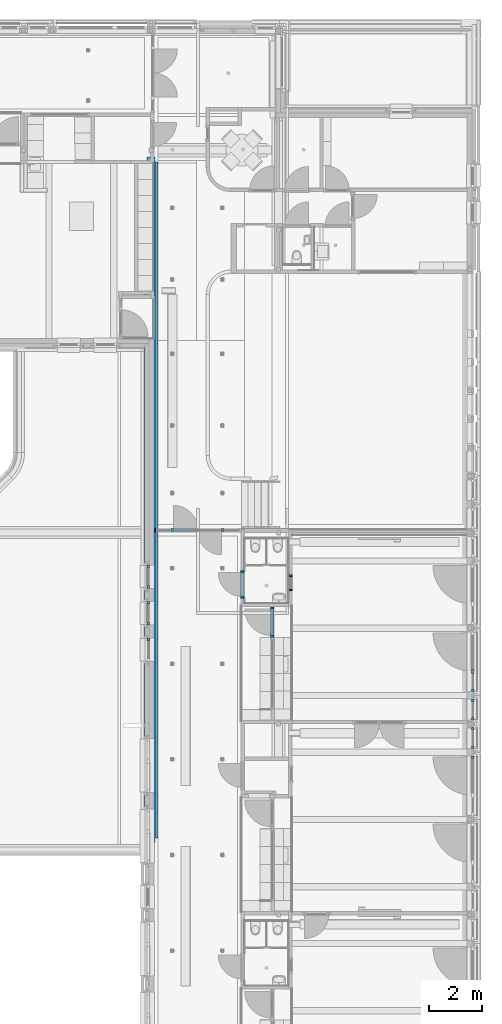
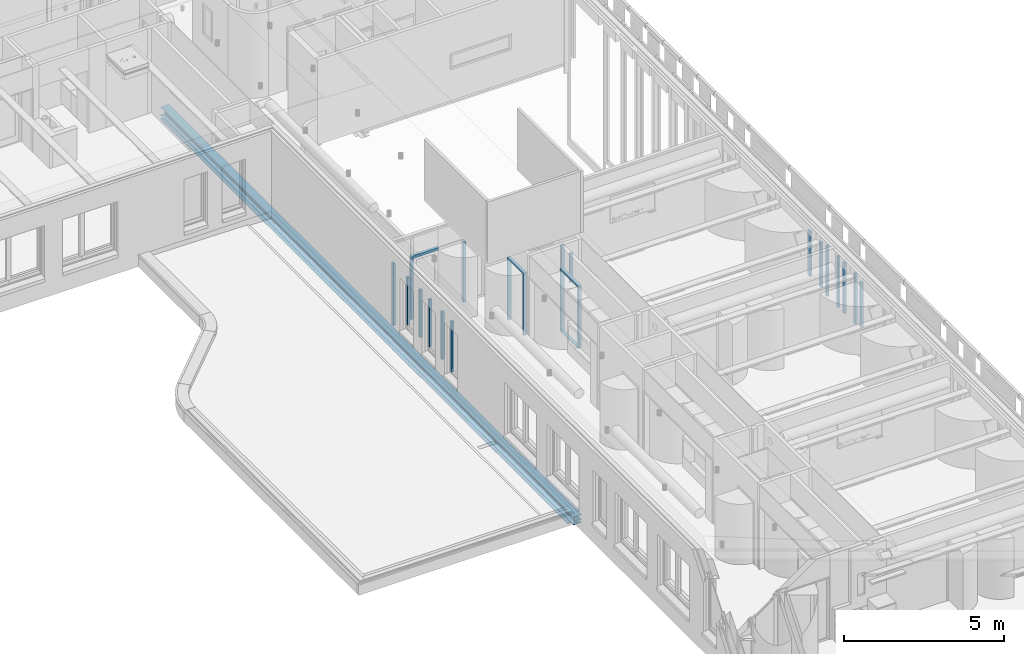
# One storey, part 11 of 128: 25 members, 1 beam, 11 elements without a shape of their own.
"""IFC2X3 building model written with IfcOpenShell, lengths in millimetres."""

from ifc_helpers import new_model, entity, si_unit, converted_unit, derived_unit, direction, frame, frame_2d, origin, origin_2d_with_axis, place, context, subcontext, project, spatial, polyline, circle_curve, parameter, trimmed, segment, composite_curve, rectangle, outline, extrude, source, transform, mapped, material, material_list, type_object, type_shapes, element, aggregate, save


model = new_model("IFC2X3")

# Units and contexts
model_context = context("Model", 3, precision=0.01, world=origin(), true_north=direction((6.123031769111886e-17, 1.0)))
body_context = subcontext(model_context, "Body", "Model", "MODEL_VIEW")
ifc_project = project(units=[si_unit("LENGTHUNIT", "METRE", prefix="MILLI"), si_unit("AREAUNIT", "SQUARE_METRE"), si_unit("VOLUMEUNIT", "CUBIC_METRE"), converted_unit("PLANEANGLEUNIT", "DEGREE", entity("IfcRatioMeasure", 0.017453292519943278), si_unit("PLANEANGLEUNIT", "RADIAN"), dimensions=[0, 0, 0, 0, 0, 0, 0]), si_unit("MASSUNIT", "GRAM", prefix="KILO"), derived_unit("MASSDENSITYUNIT", [(si_unit("MASSUNIT", "GRAM", prefix="KILO"), 1), (si_unit("LENGTHUNIT", "METRE"), -3)]), derived_unit("IONCONCENTRATIONUNIT", [(si_unit("MASSUNIT", "GRAM", prefix="KILO"), 1), (si_unit("LENGTHUNIT", "METRE"), -3)]), derived_unit("MOMENTOFINERTIAUNIT", [(si_unit("LENGTHUNIT", "METRE"), 4)]), si_unit("TIMEUNIT", "SECOND"), si_unit("FREQUENCYUNIT", "HERTZ"), si_unit("THERMODYNAMICTEMPERATUREUNIT", "DEGREE_CELSIUS"), derived_unit("THERMALTRANSMITTANCEUNIT", [(si_unit("MASSUNIT", "GRAM", prefix="KILO"), 1), (si_unit("THERMODYNAMICTEMPERATUREUNIT", "KELVIN"), -1), (si_unit("TIMEUNIT", "SECOND"), -3)]), derived_unit("THERMALCONDUCTANCEUNIT", [(si_unit("MASSUNIT", "GRAM", prefix="KILO"), 1), (si_unit("THERMODYNAMICTEMPERATUREUNIT", "KELVIN"), -1), (si_unit("TIMEUNIT", "SECOND"), -3), (si_unit("LENGTHUNIT", "METRE"), 1)]), derived_unit("VOLUMETRICFLOWRATEUNIT", [(si_unit("LENGTHUNIT", "METRE"), 3), (si_unit("TIMEUNIT", "SECOND"), -1)]), derived_unit("MASSFLOWRATEUNIT", [(si_unit("MASSUNIT", "GRAM", prefix="KILO"), 1), (si_unit("TIMEUNIT", "SECOND"), -1)]), derived_unit("ROTATIONALFREQUENCYUNIT", [(si_unit("TIMEUNIT", "SECOND"), -1)]), si_unit("ELECTRICCURRENTUNIT", "AMPERE"), si_unit("ELECTRICVOLTAGEUNIT", "VOLT"), si_unit("POWERUNIT", "WATT"), si_unit("FORCEUNIT", "NEWTON", prefix="KILO"), si_unit("ILLUMINANCEUNIT", "LUX"), si_unit("LUMINOUSFLUXUNIT", "LUMEN"), si_unit("LUMINOUSINTENSITYUNIT", "CANDELA"), derived_unit("USERDEFINED", [(si_unit("MASSUNIT", "GRAM", prefix="KILO"), -1), (si_unit("LENGTHUNIT", "METRE"), -2), (si_unit("TIMEUNIT", "SECOND"), 3), (si_unit("LUMINOUSFLUXUNIT", "LUMEN"), 1)]), derived_unit("USERDEFINED", [(si_unit("MASSUNIT", "GRAM", prefix="KILO"), 1), (si_unit("TIMEUNIT", "SECOND"), -3), (si_unit("LENGTHUNIT", "METRE"), 3), (si_unit("ELECTRICCURRENTUNIT", "AMPERE"), -2)]), derived_unit("SOUNDPOWERUNIT", [(si_unit("MASSUNIT", "GRAM", prefix="KILO"), 1), (si_unit("TIMEUNIT", "SECOND"), -3), (si_unit("LENGTHUNIT", "METRE"), 2)]), derived_unit("SOUNDPRESSUREUNIT", [(si_unit("MASSUNIT", "GRAM", prefix="KILO"), 1), (si_unit("LENGTHUNIT", "METRE"), -1), (si_unit("TIMEUNIT", "SECOND"), -2)]), derived_unit("LINEARVELOCITYUNIT", [(si_unit("LENGTHUNIT", "METRE"), 1), (si_unit("TIMEUNIT", "SECOND"), -1)]), si_unit("PRESSUREUNIT", "PASCAL"), derived_unit("USERDEFINED", [(si_unit("MASSUNIT", "GRAM", prefix="KILO"), 1), (si_unit("LENGTHUNIT", "METRE"), -2), (si_unit("TIMEUNIT", "SECOND"), -2)]), derived_unit("LINEARFORCEUNIT", [(si_unit("MASSUNIT", "GRAM", prefix="KILO"), 1), (si_unit("TIMEUNIT", "SECOND"), -2)]), derived_unit("PLANARFORCEUNIT", [(si_unit("MASSUNIT", "GRAM", prefix="KILO"), 1), (si_unit("LENGTHUNIT", "METRE"), -1), (si_unit("TIMEUNIT", "SECOND"), -2)]), derived_unit("SPECIFICHEATCAPACITYUNIT", [(si_unit("THERMODYNAMICTEMPERATUREUNIT", "KELVIN"), -1), (si_unit("LENGTHUNIT", "METRE"), 2), (si_unit("TIMEUNIT", "SECOND"), -2)]), derived_unit("HEATINGVALUEUNIT", [(si_unit("LENGTHUNIT", "METRE"), 2), (si_unit("TIMEUNIT", "SECOND"), -2)]), derived_unit("VAPORPERMEABILITYUNIT", [(si_unit("LENGTHUNIT", "METRE"), -1), (si_unit("TIMEUNIT", "SECOND"), 1)]), derived_unit("DYNAMICVISCOSITYUNIT", [(si_unit("MASSUNIT", "GRAM", prefix="KILO"), 1), (si_unit("TIMEUNIT", "SECOND"), -1), (si_unit("LENGTHUNIT", "METRE"), -1)]), derived_unit("THERMALEXPANSIONCOEFFICIENTUNIT", [(si_unit("THERMODYNAMICTEMPERATUREUNIT", "KELVIN"), -1)]), derived_unit("MODULUSOFELASTICITYUNIT", [(si_unit("MASSUNIT", "GRAM", prefix="KILO"), 1), (si_unit("LENGTHUNIT", "METRE"), -1), (si_unit("TIMEUNIT", "SECOND"), -2)]), derived_unit("ISOTHERMALMOISTURECAPACITYUNIT", [(si_unit("LENGTHUNIT", "METRE"), 3), (si_unit("MASSUNIT", "GRAM", prefix="KILO"), -1)]), derived_unit("MOISTUREDIFFUSIVITYUNIT", [(si_unit("TIMEUNIT", "SECOND"), -1), (si_unit("LENGTHUNIT", "METRE"), 2)])], contexts=[model_context])

# Site, building, storey
site_placement = place(None, frame((0.0, 300.0, 0.0)))
site = spatial("IfcSite", under=ifc_project, at=site_placement, Name="<Kadastrale nummers>", CompositionType="ELEMENT")
building_placement = place(site_placement, origin())
building = spatial("IfcBuilding", under=site, at=building_placement, CompositionType="ELEMENT")
storey_placement = place(building_placement, frame((0.0, 0.0, 3560.0000331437)))
storey = spatial("IfcBuildingStorey", under=building, at=storey_placement, Name="01 eerste verdieping", CompositionType="ELEMENT", Elevation=3560.0000331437)

# Beam
ifc_material_1 = material(Name="ISR_Staal")
ifc_material_2 = material(Name="<Unnamed>")
ifc_material_list = material_list([ifc_material_2, ifc_material_1])
beam_type = type_object("IfcBeamType", Name="NLRS_28_SF_LIB_balk SFB_gen_ASN:balk HEA320 500x20", PredefinedType="BEAM", material=ifc_material_list)
shared_shape_1 = source(origin(), body_context, "Body", "SweptSolid", [
    extrude(rectangle(XDim=20.000000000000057, YDim=499.99999999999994, at=origin_2d_with_axis()), frame((-12597.299999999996, 0.0, -111.0), z_axis=(1.0, 0.0, 0.0), x_axis=(0.0, 0.0, -1.0)), (0.0, 0.0, 1.0), 25467.299999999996),
    extrude(outline(composite_curve([segment(polyline([(139.49999999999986, -150.0), (155.0, -150.0)]), True, "CONTINUOUS"), segment(polyline([(155.0, -150.0), (155.0, 150.0)]), True, "CONTINUOUS"), segment(polyline([(155.0, 150.0), (139.49999999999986, 150.0)]), True, "CONTINUOUS"), segment(polyline([(139.49999999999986, 150.0), (139.49999999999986, 31.499999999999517)]), True, "CONTINUOUS"), segment(trimmed(circle_curve(frame_2d((112.49999999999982, 31.499999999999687), x_axis=(1.0, 0.0)), 27.000000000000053), [parameter(270.00000000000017)], [parameter(0.0)], True, "PARAMETER"), False, "CONTINUOUS"), segment(polyline([(112.49999999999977, 4.499999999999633), (-112.49999999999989, 4.499999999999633)]), True, "CONTINUOUS"), segment(trimmed(circle_curve(frame_2d((-112.49999999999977, 31.49999999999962), x_axis=(0.0, -1.0)), 26.99999999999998), [parameter(269.9999999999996)], [parameter(0.0)], True, "PARAMETER"), False, "CONTINUOUS"), segment(polyline([(-139.49999999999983, 31.499999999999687), (-139.49999999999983, 150.0)]), True, "CONTINUOUS"), segment(polyline([(-139.49999999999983, 150.0), (-155.0, 150.0)]), True, "CONTINUOUS"), segment(polyline([(-155.0, 150.0), (-155.0, -150.0)]), True, "CONTINUOUS"), segment(polyline([(-155.0, -150.0), (-139.49999999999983, -150.0)]), True, "CONTINUOUS"), segment(polyline([(-139.49999999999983, -150.0), (-139.49999999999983, -31.500000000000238)]), True, "CONTINUOUS"), segment(trimmed(circle_curve(frame_2d((-112.49999999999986, -31.500000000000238), x_axis=(-1.0, 0.0)), 26.999999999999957), [parameter(269.99999999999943)], [parameter(0.0)], True, "PARAMETER"), False, "CONTINUOUS"), segment(polyline([(-112.49999999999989, -4.500000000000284), (112.49999999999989, -4.500000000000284)]), True, "CONTINUOUS"), segment(trimmed(circle_curve(frame_2d((112.49999999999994, -31.500000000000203), x_axis=(0.0, 1.0)), 26.99999999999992), [parameter(269.9999999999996)], [parameter(0.0)], True, "PARAMETER"), False, "CONTINUOUS"), segment(polyline([(139.49999999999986, -31.500000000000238), (139.49999999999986, -150.0)]), True, "CONTINUOUS")], self_intersect=False)), frame((-12772.299999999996, 0.0, 54.0), z_axis=(1.0, 0.0, 0.0), x_axis=(0.0, 0.0, -1.0)), (0.0, 0.0, 1.0), 25817.299999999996),
])
type_shapes(beam_type, [shared_shape_1])
beam_placement = place(storey_placement, frame((36600.0, 32265.0, -219.0), z_axis=(0.0, 0.0, 1.0), x_axis=(0.0, -1.0, 0.0)))
element("IfcBeam", 1, at=beam_placement, inside=storey, type_object=beam_type, material=ifc_material_1, Name="NLRS_28_SF_LIB_balk SFB_gen_ASN:balk HEA320 500x20", ObjectType="NLRS_28_SF_LIB_balk SFB_gen_ASN:balk HEA320 500x20", context=body_context, shape_type="MappedRepresentation", body=[
    mapped(shared_shape_1, transform((0.0, 0.0, 0.0), scale=1.0)),
])

# Curtain wall, members
curtain_wall_type_1 = type_object("IfcCurtainWallType", Name="Curtain Wall:Merk H01", PredefinedType="NOTDEFINED")
curtain_wall_1_placement = place(storey_placement, frame((0.0, 0.0, -3560.0000331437)))
curtain_wall_1 = element("IfcCurtainWall", 2, at=curtain_wall_1_placement, inside=storey, type_object=curtain_wall_type_1, Name="Curtain Wall:Merk H01", ObjectType="Curtain Wall:Merk H01")
ifc_material_3 = material(Name="ISR_HPL")
member_type_1 = type_object("IfcMemberType", Name="Rectangular Mullion:31_CWM_067x114", PredefinedType="MULLION", material=ifc_material_3)
shared_shape_2 = source(origin(), body_context, "Body", "SweptSolid", [
    extrude(rectangle(XDim=113.99999999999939, YDim=67.0, at=origin_2d_with_axis()), frame((-33.5, -57.0, -1034.0), z_axis=(0.0, 0.0, 1.0), x_axis=(0.0, -1.0, 0.0)), (0.0, 0.0, 1.0), 1033.9999999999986),
])
type_shapes(member_type_1, [shared_shape_2])
member_1_placement = place(curtain_wall_1_placement, frame((40084.0, 29462.997246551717, 6040.0000331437), z_axis=(0.0, 1.0, 0.0), x_axis=(0.0, 0.0, 1.0)))
member_1 = element("IfcMember", 3, at=member_1_placement, type_object=member_type_1, material=ifc_material_3, Name="Rectangular Mullion:31_CWM_067x114", ObjectType="Rectangular Mullion:31_CWM_067x114", context=body_context, shape_type="MappedRepresentation", body=[
    mapped(shared_shape_2, transform((0.0, 0.0, 0.0), scale=1.0)),
])
member_type_2 = type_object("IfcMemberType", Name="Rectangular Mullion:31_CWM_067x114", PredefinedType="MULLION", material=ifc_material_3)
shared_shape_3 = source(origin(), body_context, "Body", "SweptSolid", [
    extrude(rectangle(XDim=113.99999999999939, YDim=67.0, at=origin_2d_with_axis()), frame((-33.5, -57.0, -2323.0), z_axis=(0.0, 0.0, 1.0), x_axis=(0.0, -1.0, 0.0)), (0.0, 0.0, 1.0), 2323.0),
])
type_shapes(member_type_2, [shared_shape_3])
member_2_placement = place(curtain_wall_1_placement, frame((40084.0, 29462.997246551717, 3650.00003501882), z_axis=(0.0, 0.0, -1.0), x_axis=(0.0, 1.0, 0.0)))
member_2 = element("IfcMember", 4, at=member_2_placement, type_object=member_type_2, material=ifc_material_3, Name="Rectangular Mullion:31_CWM_067x114", ObjectType="Rectangular Mullion:31_CWM_067x114", context=body_context, shape_type="MappedRepresentation", body=[
    mapped(shared_shape_3, transform((0.0, 0.0, 0.0), scale=1.0)),
])

# Curtain wall, member
curtain_wall_type_2 = type_object("IfcCurtainWallType", Name="Curtain Wall:Merk H09", PredefinedType="NOTDEFINED")
curtain_wall_2_placement = place(storey_placement, frame((0.0, 0.0, -3560.0000331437)))
curtain_wall_2 = element("IfcCurtainWall", 5, at=curtain_wall_2_placement, inside=storey, type_object=curtain_wall_type_2, Name="Curtain Wall:Merk H09", ObjectType="Curtain Wall:Merk H09")
member_3_placement = place(curtain_wall_2_placement, frame((41209.0, 28094.998623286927, 3650.00003501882), z_axis=(0.0, 0.0, -1.0), x_axis=(0.0, 1.0, 0.0)))
member_3 = element("IfcMember", 6, at=member_3_placement, type_object=member_type_2, material=ifc_material_3, Name="Rectangular Mullion:31_CWM_067x114", ObjectType="Rectangular Mullion:31_CWM_067x114", context=body_context, shape_type="MappedRepresentation", body=[
    mapped(shared_shape_3, transform((0.0, 0.0, 0.0), scale=1.0)),
])

# Member
member_type_3 = type_object("IfcMemberType", Name="Rectangular Mullion:31_CWM_067x114", PredefinedType="MULLION", material=ifc_material_3)
shared_shape_4 = source(origin(), body_context, "Body", "SweptSolid", [
    extrude(rectangle(XDim=113.9999999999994, YDim=67.0, at=frame_2d((1.0658141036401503e-14, 0.0), x_axis=(1.0, 0.0))), frame((-33.5, -57.0, -2323.0), z_axis=(0.0, 0.0, 1.0), x_axis=(0.0, -1.0, 0.0)), (0.0, 0.0, 1.0), 2323.0),
])
type_shapes(member_type_3, [shared_shape_4])
member_4_placement = place(curtain_wall_1_placement, frame((40084.0, 28428.997246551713, 5973.0000331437), z_axis=(0.0, 0.0, 1.0), x_axis=(0.0, -1.0, 0.0)))
member_4 = element("IfcMember", 7, at=member_4_placement, type_object=member_type_3, material=ifc_material_3, Name="Rectangular Mullion:31_CWM_067x114", ObjectType="Rectangular Mullion:31_CWM_067x114", context=body_context, shape_type="MappedRepresentation", body=[
    mapped(shared_shape_4, transform((0.0, 0.0, 0.0), scale=1.0)),
])

aggregate(curtain_wall_1, [member_1, member_2, member_4])

member_5_placement = place(curtain_wall_2_placement, frame((41209.0, 26960.99862328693, 5973.0000331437), z_axis=(0.0, 0.0, 1.0), x_axis=(0.0, -1.0, 0.0)))
member_5 = element("IfcMember", 8, at=member_5_placement, type_object=member_type_3, material=ifc_material_3, Name="Rectangular Mullion:31_CWM_067x114", ObjectType="Rectangular Mullion:31_CWM_067x114", context=body_context, shape_type="MappedRepresentation", body=[
    mapped(shared_shape_4, transform((0.0, 0.0, 0.0), scale=1.0)),
])

member_type_4 = type_object("IfcMemberType", Name="Rectangular Mullion:31_CWM_067x114", PredefinedType="MULLION", material=ifc_material_3)
shared_shape_5 = source(origin(), body_context, "Body", "SweptSolid", [
    extrude(rectangle(XDim=113.99999999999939, YDim=67.0, at=origin_2d_with_axis()), frame((-33.5, -57.0, -1134.0), z_axis=(0.0, 0.0, 1.0), x_axis=(0.0, -1.0, 0.0)), (0.0, 0.0, 1.0), 1133.9999999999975),
])
type_shapes(member_type_4, [shared_shape_5])
member_6_placement = place(curtain_wall_2_placement, frame((41209.0, 28094.998623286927, 6040.0000331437), z_axis=(0.0, 1.0, 0.0), x_axis=(0.0, 0.0, 1.0)))
member_6 = element("IfcMember", 9, at=member_6_placement, type_object=member_type_4, material=ifc_material_3, Name="Rectangular Mullion:31_CWM_067x114", ObjectType="Rectangular Mullion:31_CWM_067x114", context=body_context, shape_type="MappedRepresentation", body=[
    mapped(shared_shape_5, transform((0.0, 0.0, 0.0), scale=1.0)),
])

ifc_material_4 = material(Name="ISR_Kunststof_grijs")
member_type_5 = type_object("IfcMemberType", Name="Rectangular Mullion:31_CWM_020x114", PredefinedType="MULLION", material=ifc_material_4)
shared_shape_6 = source(origin(), body_context, "Body", "SweptSolid", [
    extrude(rectangle(XDim=113.9999999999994, YDim=20.0, at=frame_2d((1.0658141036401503e-14, 0.0), x_axis=(1.0, 0.0))), frame((-10.0, -57.0, -1000.0), z_axis=(0.0, 0.0, 1.0), x_axis=(0.0, -1.0, 0.0)), (0.0, 0.0, 1.0), 999.999999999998),
])
type_shapes(member_type_5, [shared_shape_6])
member_7_placement = place(curtain_wall_2_placement, frame((41209.0, 27027.99862328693, 3650.00003501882), z_axis=(0.0, -1.0, 0.0), x_axis=(0.0, 0.0, -1.0)))
member_7 = element("IfcMember", 10, at=member_7_placement, type_object=member_type_5, material=ifc_material_4, Name="Rectangular Mullion:31_CWM_020x114", ObjectType="Rectangular Mullion:31_CWM_020x114", context=body_context, shape_type="MappedRepresentation", body=[
    mapped(shared_shape_6, transform((0.0, 0.0, 0.0), scale=1.0)),
])

aggregate(curtain_wall_2, [member_5, member_6, member_7, member_3])

# Curtain wall, members
curtain_wall_type_3 = type_object("IfcCurtainWallType", Name="Curtain Wall:Merk H05", PredefinedType="NOTDEFINED")
curtain_wall_3_placement = place(storey_placement, frame((0.0, 0.0, -3560.0000331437)))
curtain_wall_3 = element("IfcCurtainWall", 11, at=curtain_wall_3_placement, inside=storey, type_object=curtain_wall_type_3, Name="Curtain Wall:Merk H05", ObjectType="Curtain Wall:Merk H05")
member_type_6 = type_object("IfcMemberType", Name="Rectangular Mullion:31_CWM_067x114", PredefinedType="MULLION", material=ifc_material_3)
shared_shape_7 = source(origin(), body_context, "Body", "SweptSolid", [
    extrude(rectangle(XDim=113.99999999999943, YDim=67.0, at=origin_2d_with_axis()), frame((-33.5, 57.0, -1123.0), z_axis=(0.0, 0.0, 1.0), x_axis=(0.0, -1.0, 0.0)), (0.0, 0.0, 1.0), 1123.0000000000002),
])
type_shapes(member_type_6, [shared_shape_7])
member_8_placement = place(curtain_wall_3_placement, frame((41801.0, 29309.998623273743, 4850.0000331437), z_axis=(0.0, 0.0, -1.0), x_axis=(0.0, 1.0, 0.0)))
member_8 = element("IfcMember", 12, at=member_8_placement, type_object=member_type_6, material=ifc_material_3, Name="Rectangular Mullion:31_CWM_067x114", ObjectType="Rectangular Mullion:31_CWM_067x114", context=body_context, shape_type="MappedRepresentation", body=[
    mapped(shared_shape_7, transform((0.0, 0.0, 0.0), scale=1.0)),
])
member_type_7 = type_object("IfcMemberType", Name="Rectangular Mullion:31_CWM_067x114", PredefinedType="MULLION", material=ifc_material_3)
shared_shape_8 = source(origin(), body_context, "Body", "SweptSolid", [
    extrude(rectangle(XDim=113.99999999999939, YDim=67.0, at=origin_2d_with_axis()), frame((-33.5, 57.0, -1123.0), z_axis=(0.0, 0.0, 1.0), x_axis=(0.0, -1.0, 0.0)), (0.0, 0.0, 1.0), 1123.0000000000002),
])
type_shapes(member_type_7, [shared_shape_8])
member_9_placement = place(curtain_wall_3_placement, frame((41801.0, 28709.998623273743, 5973.0000331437), z_axis=(0.0, 0.0, 1.0), x_axis=(0.0, -1.0, 0.0)))
member_9 = element("IfcMember", 13, at=member_9_placement, type_object=member_type_7, material=ifc_material_3, Name="Rectangular Mullion:31_CWM_067x114", ObjectType="Rectangular Mullion:31_CWM_067x114", context=body_context, shape_type="MappedRepresentation", body=[
    mapped(shared_shape_8, transform((0.0, 0.0, 0.0), scale=1.0)),
])
aggregate(curtain_wall_3, [member_8, member_9])

curtain_wall_type_4 = type_object("IfcCurtainWallType", Name="Curtain Wall:Merk H12", PredefinedType="NOTDEFINED")
curtain_wall_4_placement = place(storey_placement, frame((0.0, 0.0, -3560.0000331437)))
curtain_wall_4 = element("IfcCurtainWall", 14, at=curtain_wall_4_placement, inside=storey, type_object=curtain_wall_type_4, Name="Curtain Wall:Merk H12", ObjectType="Curtain Wall:Merk H12")
ifc_material_5 = material(Name="ISR_HPL Kleur hout")
member_type_8 = type_object("IfcMemberType", Name="Rectangular Mullion:31_CWM_090x114", PredefinedType="MULLION", material=ifc_material_5)
shared_shape_9 = source(origin(), body_context, "Body", "SweptSolid", [
    extrude(rectangle(XDim=113.99999999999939, YDim=90.0, at=origin_2d_with_axis()), frame((0.0, -57.0, -2323.0), z_axis=(0.0, 0.0, 1.0), x_axis=(0.0, -1.0, 0.0)), (0.0, 0.0, 1.0), 2322.9999999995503),
])
type_shapes(member_type_8, [shared_shape_9])
member_10_placement = place(curtain_wall_4_placement, frame((37401.25000000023, 30936.0, 3650.0000350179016), z_axis=(0.0, 0.0, -1.0), x_axis=(1.0, 0.0, 0.0)))
member_10 = element("IfcMember", 15, at=member_10_placement, type_object=member_type_8, material=ifc_material_5, Name="Rectangular Mullion:31_CWM_090x114", ObjectType="Rectangular Mullion:31_CWM_090x114", context=body_context, shape_type="MappedRepresentation", body=[
    mapped(shared_shape_9, transform((0.0, 0.0, 0.0), scale=1.0)),
])
member_11_placement = place(curtain_wall_4_placement, frame((39291.25000000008, 30936.0, 3650.0000350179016), z_axis=(0.0, 0.0, -1.0), x_axis=(1.0, 0.0, 0.0)))
member_11 = element("IfcMember", 16, at=member_11_placement, type_object=member_type_8, material=ifc_material_5, Name="Rectangular Mullion:31_CWM_090x114", ObjectType="Rectangular Mullion:31_CWM_090x114", context=body_context, shape_type="MappedRepresentation", body=[
    mapped(shared_shape_9, transform((0.0, 0.0, 0.0), scale=1.0)),
])
member_type_9 = type_object("IfcMemberType", Name="Rectangular Mullion:31_CWM_067x114", PredefinedType="MULLION", material=ifc_material_3)
shared_shape_10 = source(origin(), body_context, "Body", "SweptSolid", [
    extrude(rectangle(XDim=113.99999999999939, YDim=67.0, at=origin_2d_with_axis()), frame((-33.5, -57.0, -2368.0), z_axis=(0.0, 0.0, 1.0), x_axis=(0.0, -1.0, 0.0)), (0.0, 0.0, 1.0), 2368.0),
])
type_shapes(member_type_9, [shared_shape_10])
member_12_placement = place(curtain_wall_4_placement, frame((36715.0, 30936.0, 6018.0000331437), z_axis=(0.0, 0.0, 1.0), x_axis=(-1.0, 0.0, 0.0)))
member_12 = element("IfcMember", 17, at=member_12_placement, type_object=member_type_9, material=ifc_material_3, Name="Rectangular Mullion:31_CWM_067x114", ObjectType="Rectangular Mullion:31_CWM_067x114", context=body_context, shape_type="MappedRepresentation", body=[
    mapped(shared_shape_10, transform((0.0, 0.0, 0.0), scale=1.0)),
])
member_type_10 = type_object("IfcMemberType", Name="Rectangular Mullion:31_CWM_090x114", PredefinedType="MULLION", material=ifc_material_5)
shared_shape_11 = source(origin(), body_context, "Body", "SweptSolid", [
    extrude(rectangle(XDim=113.99999999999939, YDim=90.0, at=origin_2d_with_axis()), frame((0.0, -57.0, -993.7499999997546), z_axis=(0.0, 0.0, 1.0), x_axis=(0.0, -1.0, 0.0)), (0.0, 0.0, 1.0), 993.7499999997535),
])
type_shapes(member_type_10, [shared_shape_11])
member_13_placement = place(curtain_wall_4_placement, frame((38350.0, 30936.0, 6018.0000331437), z_axis=(1.0, 0.0, 0.0), x_axis=(0.0, 0.0, 1.0)))
member_13 = element("IfcMember", 18, at=member_13_placement, type_object=member_type_10, material=ifc_material_5, Name="Rectangular Mullion:31_CWM_090x114", ObjectType="Rectangular Mullion:31_CWM_090x114", context=body_context, shape_type="MappedRepresentation", body=[
    mapped(shared_shape_11, transform((0.0, 0.0, 0.0), scale=1.0)),
])
aggregate(curtain_wall_4, [member_10, member_11, member_12, member_13])

# Curtain wall, member
curtain_wall_type_5 = type_object("IfcCurtainWallType", Name="Curtain Wall:K_28", PredefinedType="NOTDEFINED")
curtain_wall_5_placement = place(storey_placement, frame((0.0, 0.0, -3560.0000331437)))
curtain_wall_5 = element("IfcCurtainWall", 19, at=curtain_wall_5_placement, inside=storey, type_object=curtain_wall_type_5, Name="Curtain Wall:K_28", ObjectType="Curtain Wall:K_28")
ifc_material_6 = material(Name="ISR_Kunststof_RAL7006")
member_type_11 = type_object("IfcMemberType", Name="Rectangular Mullion:100x83 Gealan Kubus", PredefinedType="MULLION", material=ifc_material_6)
shared_shape_12 = source(origin(), body_context, "Body", "SweptSolid", [
    extrude(rectangle(XDim=83.0, YDim=100.0, at=origin_2d_with_axis()), frame((-50.0, 41.5, -1810.0), z_axis=(0.0, 0.0, 1.0), x_axis=(0.0, -1.0, 0.0)), (0.0, 0.0, 1.0), 1810.0),
])
type_shapes(member_type_11, [shared_shape_12])
member_14_placement = place(curtain_wall_5_placement, frame((36532.0, 27425.0, 4580.000035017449), z_axis=(0.0, 0.0, -1.0), x_axis=(0.0, -1.0, 0.0)))
member_14 = element("IfcMember", 20, at=member_14_placement, type_object=member_type_11, material=ifc_material_6, Name="Rectangular Mullion:100x83 Gealan Kubus", ObjectType="Rectangular Mullion:100x83 Gealan Kubus", context=body_context, shape_type="MappedRepresentation", body=[
    mapped(shared_shape_12, transform((0.0, 0.0, 0.0), scale=1.0)),
])

curtain_wall_6_placement = place(storey_placement, frame((0.0, 0.0, -3560.0000331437)))
curtain_wall_6 = element("IfcCurtainWall", 21, at=curtain_wall_6_placement, inside=storey, type_object=curtain_wall_type_5, Name="Curtain Wall:K_28", ObjectType="Curtain Wall:K_28")
member_15_placement = place(curtain_wall_6_placement, frame((36532.0, 28805.0, 4580.000035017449), z_axis=(0.0, 0.0, -1.0), x_axis=(0.0, -1.0, 0.0)))
member_15 = element("IfcMember", 22, at=member_15_placement, type_object=member_type_11, material=ifc_material_6, Name="Rectangular Mullion:100x83 Gealan Kubus", ObjectType="Rectangular Mullion:100x83 Gealan Kubus", context=body_context, shape_type="MappedRepresentation", body=[
    mapped(shared_shape_12, transform((0.0, 0.0, 0.0), scale=1.0)),
])

# Member
member_type_12 = type_object("IfcMemberType", Name="Rectangular Mullion:100x83 Gealan Kubus", PredefinedType="MULLION", material=ifc_material_6)
shared_shape_13 = source(origin(), body_context, "Body", "SweptSolid", [
    extrude(rectangle(XDim=83.0, YDim=100.0, at=origin_2d_with_axis()), frame((-50.0, 41.5, -1810.0), z_axis=(0.0, 0.0, 1.0), x_axis=(0.0, -1.0, 0.0)), (0.0, 0.0, 1.0), 1810.0),
])
type_shapes(member_type_12, [shared_shape_13])
member_16_placement = place(curtain_wall_5_placement, frame((36532.0, 28305.0, 6390.00003501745), z_axis=(0.0, 0.0, 1.0), x_axis=(0.0, 1.0, 0.0)))
member_16 = element("IfcMember", 23, at=member_16_placement, type_object=member_type_12, material=ifc_material_6, Name="Rectangular Mullion:100x83 Gealan Kubus", ObjectType="Rectangular Mullion:100x83 Gealan Kubus", context=body_context, shape_type="MappedRepresentation", body=[
    mapped(shared_shape_13, transform((0.0, 0.0, 0.0), scale=1.0)),
])

aggregate(curtain_wall_5, [member_14, member_16])

member_17_placement = place(curtain_wall_6_placement, frame((36532.0, 29685.0, 6390.00003501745), z_axis=(0.0, 0.0, 1.0), x_axis=(0.0, 1.0, 0.0)))
member_17 = element("IfcMember", 24, at=member_17_placement, type_object=member_type_12, material=ifc_material_6, Name="Rectangular Mullion:100x83 Gealan Kubus", ObjectType="Rectangular Mullion:100x83 Gealan Kubus", context=body_context, shape_type="MappedRepresentation", body=[
    mapped(shared_shape_13, transform((0.0, 0.0, 0.0), scale=1.0)),
])

aggregate(curtain_wall_6, [member_15, member_17])

# Curtain wall, member
curtain_wall_type_6 = type_object("IfcCurtainWallType", Name="Curtain Wall:K_29", PredefinedType="NOTDEFINED")
curtain_wall_7_placement = place(storey_placement, frame((0.0, 0.0, -3560.0000331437)))
curtain_wall_7 = element("IfcCurtainWall", 25, at=curtain_wall_7_placement, inside=storey, type_object=curtain_wall_type_6, Name="Curtain Wall:K_29", ObjectType="Curtain Wall:K_29")
member_type_13 = type_object("IfcMemberType", Name="Rectangular Mullion:100x83 Gealan Kubus", PredefinedType="MULLION", material=ifc_material_6)
shared_shape_14 = source(origin(), body_context, "Body", "SweptSolid", [
    extrude(rectangle(XDim=83.0, YDim=100.0, at=origin_2d_with_axis()), frame((-50.0, 41.5, -1929.9999649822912), z_axis=(0.0, 0.0, 1.0), x_axis=(0.0, -1.0, 0.0)), (0.0, 0.0, 1.0), 1929.9999649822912),
])
type_shapes(member_type_13, [shared_shape_14])
member_18_placement = place(curtain_wall_7_placement, frame((48668.0, 24630.0, 4460.000035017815), z_axis=(0.0, 0.0, -1.0), x_axis=(0.0, 1.0, 0.0)))
member_18 = element("IfcMember", 26, at=member_18_placement, type_object=member_type_13, material=ifc_material_6, Name="Rectangular Mullion:100x83 Gealan Kubus", ObjectType="Rectangular Mullion:100x83 Gealan Kubus", context=body_context, shape_type="MappedRepresentation", body=[
    mapped(shared_shape_14, transform((0.0, 0.0, 0.0), scale=1.0)),
])

curtain_wall_8_placement = place(storey_placement, frame((0.0, 0.0, -3560.0000331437)))
curtain_wall_8 = element("IfcCurtainWall", 27, at=curtain_wall_8_placement, inside=storey, type_object=curtain_wall_type_6, Name="Curtain Wall:K_29", ObjectType="Curtain Wall:K_29")
member_19_placement = place(curtain_wall_8_placement, frame((48668.0, 23560.0, 4460.000035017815), z_axis=(0.0, 0.0, -1.0), x_axis=(0.0, 1.0, 0.0)))
member_19 = element("IfcMember", 28, at=member_19_placement, type_object=member_type_13, material=ifc_material_6, Name="Rectangular Mullion:100x83 Gealan Kubus", ObjectType="Rectangular Mullion:100x83 Gealan Kubus", context=body_context, shape_type="MappedRepresentation", body=[
    mapped(shared_shape_14, transform((0.0, 0.0, 0.0), scale=1.0)),
])

# Member
member_type_14 = type_object("IfcMemberType", Name="Rectangular Mullion:100x83 Gealan Kubus", PredefinedType="MULLION", material=ifc_material_6)
shared_shape_15 = source(origin(), body_context, "Body", "SweptSolid", [
    extrude(rectangle(XDim=83.0, YDim=100.0, at=origin_2d_with_axis()), frame((-50.0, 41.5, -1929.9999649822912), z_axis=(0.0, 0.0, 1.0), x_axis=(0.0, -1.0, 0.0)), (0.0, 0.0, 1.0), 1929.9999649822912),
])
type_shapes(member_type_14, [shared_shape_15])
member_20_placement = place(curtain_wall_7_placement, frame((48668.0, 23840.0, 6390.0), z_axis=(0.0, 0.0, 1.0), x_axis=(0.0, -1.0, 0.0)))
member_20 = element("IfcMember", 29, at=member_20_placement, type_object=member_type_14, material=ifc_material_6, Name="Rectangular Mullion:100x83 Gealan Kubus", ObjectType="Rectangular Mullion:100x83 Gealan Kubus", context=body_context, shape_type="MappedRepresentation", body=[
    mapped(shared_shape_15, transform((0.0, 0.0, 0.0), scale=1.0)),
])

aggregate(curtain_wall_7, [member_18, member_20])

member_21_placement = place(curtain_wall_8_placement, frame((48668.0, 22770.0, 6390.0), z_axis=(0.0, 0.0, 1.0), x_axis=(0.0, -1.0, 0.0)))
member_21 = element("IfcMember", 30, at=member_21_placement, type_object=member_type_14, material=ifc_material_6, Name="Rectangular Mullion:100x83 Gealan Kubus", ObjectType="Rectangular Mullion:100x83 Gealan Kubus", context=body_context, shape_type="MappedRepresentation", body=[
    mapped(shared_shape_15, transform((0.0, 0.0, 0.0), scale=1.0)),
])

aggregate(curtain_wall_8, [member_19, member_21])

# Curtain wall, member
curtain_wall_type_7 = type_object("IfcCurtainWallType", Name="Curtain Wall:K_31", PredefinedType="NOTDEFINED")
curtain_wall_9_placement = place(storey_placement, frame((0.0, 0.0, -3560.0000331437)))
curtain_wall_9 = element("IfcCurtainWall", 31, at=curtain_wall_9_placement, inside=storey, type_object=curtain_wall_type_7, Name="Curtain Wall:K_31", ObjectType="Curtain Wall:K_31")
member_22_placement = place(curtain_wall_9_placement, frame((36532.0, 26925.0, 6390.00003501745), z_axis=(0.0, 0.0, 1.0), x_axis=(0.0, 1.0, 0.0)))
member_22 = element("IfcMember", 32, at=member_22_placement, type_object=member_type_14, material=ifc_material_6, Name="Rectangular Mullion:100x83 Gealan Kubus", ObjectType="Rectangular Mullion:100x83 Gealan Kubus", context=body_context, shape_type="MappedRepresentation", body=[
    mapped(shared_shape_15, transform((0.0, 0.0, 0.0), scale=1.0)),
])
aggregate(curtain_wall_9, [member_22])

curtain_wall_type_8 = type_object("IfcCurtainWallType", Name="Curtain Wall:K_22", PredefinedType="NOTDEFINED")
curtain_wall_10_placement = place(storey_placement, frame((0.0, 0.0, -3560.0000331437)))
curtain_wall_10 = element("IfcCurtainWall", 33, at=curtain_wall_10_placement, inside=storey, type_object=curtain_wall_type_8, Name="Curtain Wall:K_22", ObjectType="Curtain Wall:K_22")
member_type_15 = type_object("IfcMemberType", Name="Rectangular Mullion:100x83 Gealan Kubus", PredefinedType="MULLION", material=ifc_material_6)
shared_shape_16 = source(origin(), body_context, "Body", "SweptSolid", [
    extrude(rectangle(XDim=82.99999999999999, YDim=100.0, at=origin_2d_with_axis()), frame((-50.0, 41.49999999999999, -1709.9999649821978), z_axis=(0.0, 0.0, 1.0), x_axis=(0.0, -1.0, 0.0)), (0.0, 0.0, 1.0), 1709.9999649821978),
])
type_shapes(member_type_15, [shared_shape_16])
member_23_placement = place(curtain_wall_10_placement, frame((48668.0, 22490.0, 4580.0000331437), z_axis=(0.0, 0.0, -1.0), x_axis=(0.0, 1.0, 0.0)))
member_23 = element("IfcMember", 34, at=member_23_placement, type_object=member_type_15, material=ifc_material_6, Name="Rectangular Mullion:100x83 Gealan Kubus", ObjectType="Rectangular Mullion:100x83 Gealan Kubus", context=body_context, shape_type="MappedRepresentation", body=[
    mapped(shared_shape_16, transform((0.0, 0.0, 0.0), scale=1.0)),
])
aggregate(curtain_wall_10, [member_23])

# Curtain wall, members
curtain_wall_11_placement = place(storey_placement, frame((0.0, 0.0, -3560.0000331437)))
curtain_wall_11 = element("IfcCurtainWall", 35, at=curtain_wall_11_placement, inside=storey, type_object=curtain_wall_type_8, Name="Curtain Wall:K_22", ObjectType="Curtain Wall:K_22")
member_type_16 = type_object("IfcMemberType", Name="Rectangular Mullion:100x83 Gealan Kubus", PredefinedType="MULLION", material=ifc_material_6)
shared_shape_17 = source(origin(), body_context, "Body", "SweptSolid", [
    extrude(rectangle(XDim=83.00000000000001, YDim=100.0, at=origin_2d_with_axis()), frame((-50.0, 41.50000000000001, -1709.9999649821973), z_axis=(0.0, 0.0, 1.0), x_axis=(0.0, -1.0, 0.0)), (0.0, 0.0, 1.0), 1709.9999649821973),
])
type_shapes(member_type_16, [shared_shape_17])
member_24_placement = place(curtain_wall_11_placement, frame((48668.0, 24910.0, 6290.0), z_axis=(0.0, 0.0, 1.0), x_axis=(0.0, -1.0, 0.0)))
member_24 = element("IfcMember", 36, at=member_24_placement, type_object=member_type_16, material=ifc_material_6, Name="Rectangular Mullion:100x83 Gealan Kubus", ObjectType="Rectangular Mullion:100x83 Gealan Kubus", context=body_context, shape_type="MappedRepresentation", body=[
    mapped(shared_shape_17, transform((0.0, 0.0, 0.0), scale=1.0)),
])
member_type_17 = type_object("IfcMemberType", Name="Rectangular Mullion:154x83 Gealan Kubus", PredefinedType="MULLION", material=ifc_material_6)
shared_shape_18 = source(origin(), body_context, "Body", "SweptSolid", [
    extrude(rectangle(XDim=83.00000000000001, YDim=154.0, at=origin_2d_with_axis()), frame((0.0, 41.50000000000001, -1710.0), z_axis=(0.0, 0.0, 1.0), x_axis=(0.0, -1.0, 0.0)), (0.0, 0.0, 1.0), 1710.0000000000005),
])
type_shapes(member_type_17, [shared_shape_18])
member_25_placement = place(curtain_wall_11_placement, frame((48668.0, 25677.0, 4580.0000331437), z_axis=(0.0, 0.0, -1.0), x_axis=(0.0, 1.0, 0.0)))
member_25 = element("IfcMember", 37, at=member_25_placement, type_object=member_type_17, material=ifc_material_6, Name="Rectangular Mullion:154x83 Gealan Kubus", ObjectType="Rectangular Mullion:154x83 Gealan Kubus", context=body_context, shape_type="MappedRepresentation", body=[
    mapped(shared_shape_18, transform((0.0, 0.0, 0.0), scale=1.0)),
])
aggregate(curtain_wall_11, [member_24, member_25])

save(model, "model.ifc")
